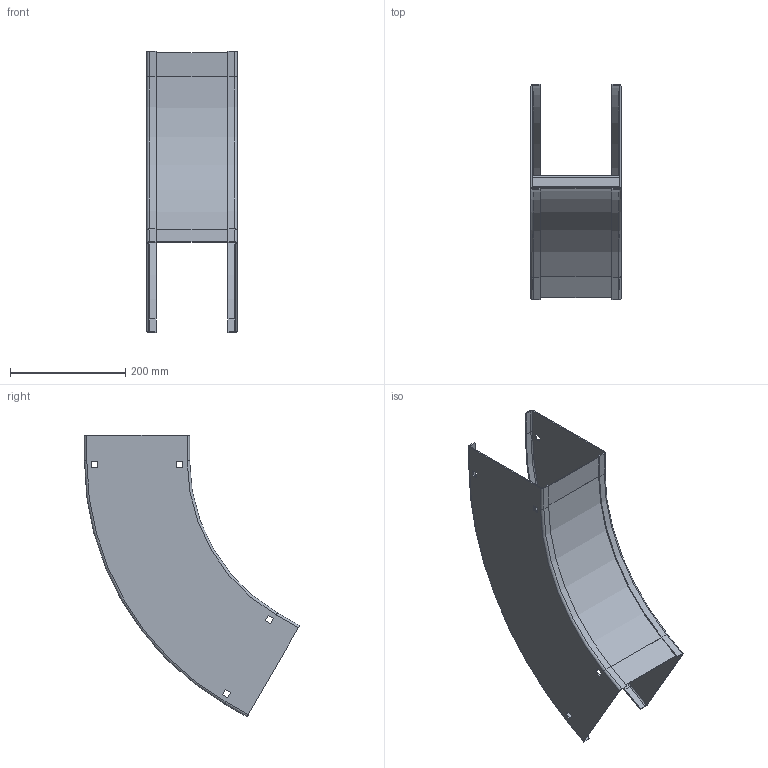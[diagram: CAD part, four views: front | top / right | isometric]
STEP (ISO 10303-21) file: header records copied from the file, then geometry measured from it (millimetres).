
FILE_DESCRIPTION((''),'2;1');
FILE_NAME('AUF706SVO6012_ASM','2010-02-02T',('erouzier'),(''),'PRO/ENGINEER BY PARAMETRIC TECHNOLOGY CORPORATION, 2008510','PRO/ENGINEER BY PARAMETRIC TECHNOLOGY CORPORATION, 2008510','');
FILE_SCHEMA(('CONFIG_CONTROL_DESIGN'));
Length unit declared in the file: inch
Products named in the file (4): CDS001419_7_60_12; CDS002159L6; CDS003665_60_12_6; AUF706SVO6012_ASM
Assembly tree (5 placements, depth 2):
  AUF706SVO6012_ASM
    CDS001419_7_60_12  x2
    CDS002159L6  x2
    CDS003665_60_12_6
Bounding box: 156.51 x 373.32 x 488.62 mm (x, y, z)
Volume: 531843.6 mm3; surface area: 616889.2 mm2
Topology: 5 solids, 5 shells, 190 faces, 468 edges, 288 vertices
Faces by surface type: plane 134, cylinder 48, torus 8
Entity records: 3074 total; most frequent: DIRECTION 524, CARTESIAN_POINT 511, ORIENTED_EDGE 496, EDGE_CURVE 248, VECTOR 194, LINE 194, AXIS2_PLACEMENT_3D 165, VERTEX_POINT 152
